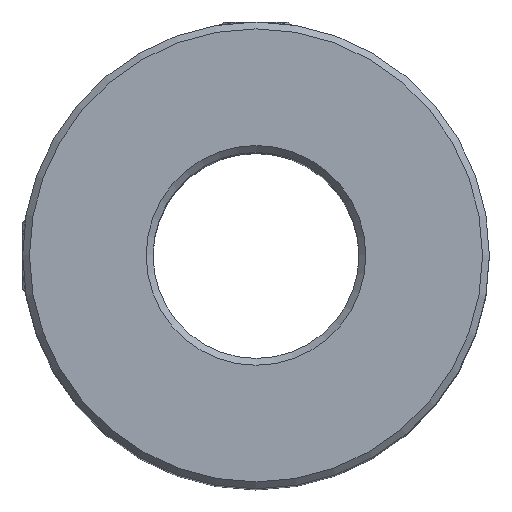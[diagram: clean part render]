
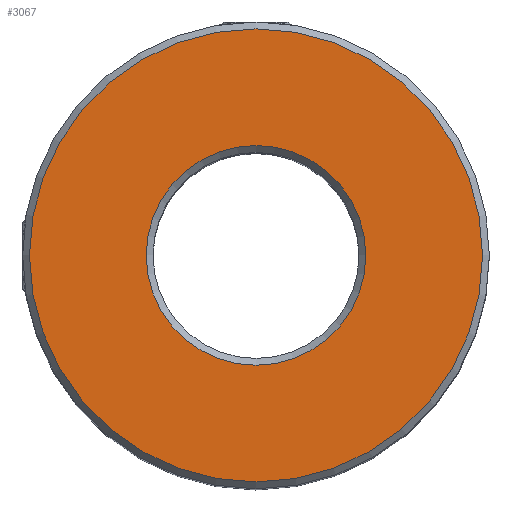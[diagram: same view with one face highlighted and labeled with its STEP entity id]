
A CAD part, top view. The second image highlights one B-rep face of the part: STEP entity #3067.
In plain terms, the highlighted planar face has unit normal (0, 0, 1).
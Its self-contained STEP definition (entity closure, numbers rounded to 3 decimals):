
#144 = CARTESIAN_POINT ( 'NONE',  ( 8., 0., 25. ) ) ;
#224 = VERTEX_POINT ( 'NONE', #144 ) ;
#383 = DIRECTION ( 'NONE',  ( 1., 0., 0. ) ) ;
#574 = CARTESIAN_POINT ( 'NONE',  ( 0., 0., 25. ) ) ;
#625 = AXIS2_PLACEMENT_3D ( 'NONE', #574, #6843, #5623 ) ;
#944 = PLANE ( 'NONE',  #625 ) ;
#1198 = CARTESIAN_POINT ( 'NONE',  ( 0., 0., 25. ) ) ;
#2122 = FACE_BOUND ( 'NONE', #6248, .T. ) ;
#2150 = EDGE_CURVE ( 'NONE', #224, #224, #4257, .T. ) ;
#2426 = AXIS2_PLACEMENT_3D ( 'NONE', #5225, #2815, #383 ) ;
#2477 = EDGE_CURVE ( 'NONE', #3278, #3278, #5911, .T. ) ;
#2708 = CARTESIAN_POINT ( 'NONE',  ( 16.5, 0., 25. ) ) ;
#2776 = FACE_OUTER_BOUND ( 'NONE', #6689, .T. ) ;
#2815 = DIRECTION ( 'NONE',  ( 0., 0., 1. ) ) ;
#3067 = ADVANCED_FACE ( 'NONE', ( #2122, #2776 ), #944, .T. ) ;
#3161 = ORIENTED_EDGE ( 'NONE', *, *, #2477, .T. ) ;
#3278 = VERTEX_POINT ( 'NONE', #2708 ) ;
#4257 = CIRCLE ( 'NONE', #6697, 8. ) ;
#4796 = DIRECTION ( 'NONE',  ( 1., 0., 0. ) ) ;
#5225 = CARTESIAN_POINT ( 'NONE',  ( 0., 0., 25. ) ) ;
#5594 = ORIENTED_EDGE ( 'NONE', *, *, #2150, .T. ) ;
#5623 = DIRECTION ( 'NONE',  ( 1., 0., 0. ) ) ;
#5911 = CIRCLE ( 'NONE', #2426, 16.5 ) ;
#6248 = EDGE_LOOP ( 'NONE', ( #5594 ) ) ;
#6689 = EDGE_LOOP ( 'NONE', ( #3161 ) ) ;
#6697 = AXIS2_PLACEMENT_3D ( 'NONE', #1198, #7410, #4796 ) ;
#6843 = DIRECTION ( 'NONE',  ( 0., 0., 1. ) ) ;
#7410 = DIRECTION ( 'NONE',  ( 0., 0., -1. ) ) ;
